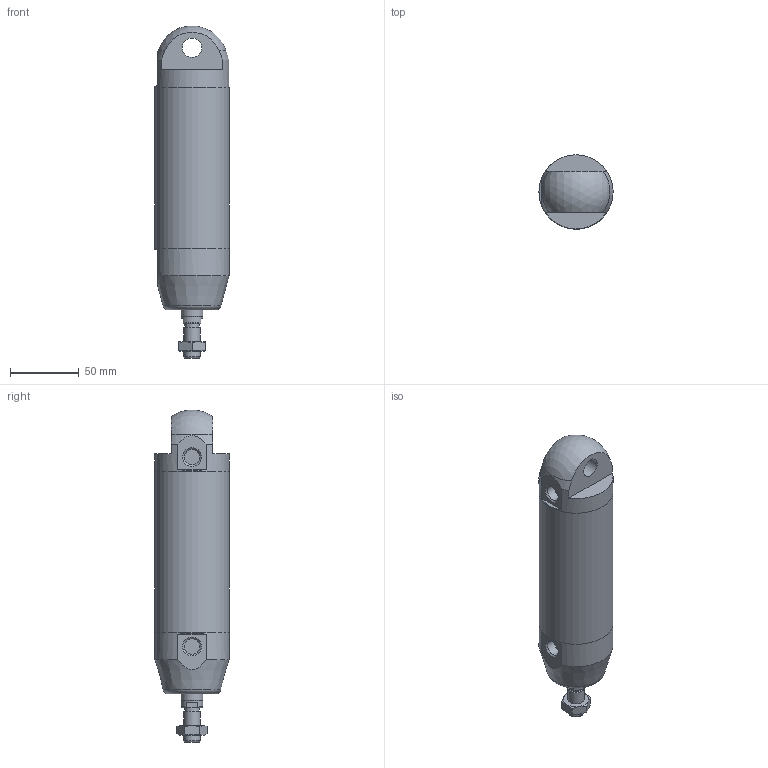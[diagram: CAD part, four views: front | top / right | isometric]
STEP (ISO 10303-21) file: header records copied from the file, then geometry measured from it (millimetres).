
FILE_DESCRIPTION(/* description */ (''),/* implementation_level */ '2;1');
FILE_NAME(/* name */ 'I:\Area Tecnica\Documenti\A-Manieri\_Inventor\12X\12X#A_###_####_#_#\12XAA_050_0075_#_#.stp',/* time_stamp */ '2015-04-22T12:07:53+02:00',/* author */ ('maniean1'),/* organization */ ('Pneumax S.p.A.'),/* preprocessor_version */ 'ST-DEVELOPER v15.2',/* originating_system */ 'Autodesk Inventor 2014',/* authorisation */ '');
FILE_SCHEMA (('AUTOMOTIVE_DESIGN { 1 0 10303 214 3 1 1 }'));
Length unit declared in the file: millimetre
Products named in the file (6): C1250_619-0075; 12X50_613; 12X50_605; S12X50_0075; 12X_50_11; 12XAA_050_0075_#_#
Bounding box: 54 x 54 x 241.83 mm (x, y, z)
Volume: 293731.5 mm3; surface area: 81956 mm2
Topology: 5 solids, 5 shells, 59 faces, 126 edges, 81 vertices
Faces by surface type: plane 31, cylinder 14, cone 12, torus 1, sphere 1
Full cylindrical faces by diameter (mm): 10.2 x1, 11.4 x2, 12 x2, 14 x2, 15.6 x1, 16 x1, 50 x2, 54 x3
Entity records: 1560 total; most frequent: CARTESIAN_POINT 288, DIRECTION 266, ORIENTED_EDGE 196, AXIS2_PLACEMENT_3D 120, EDGE_CURVE 98, EDGE_LOOP 94, VERTEX_POINT 76, ADVANCED_FACE 59
